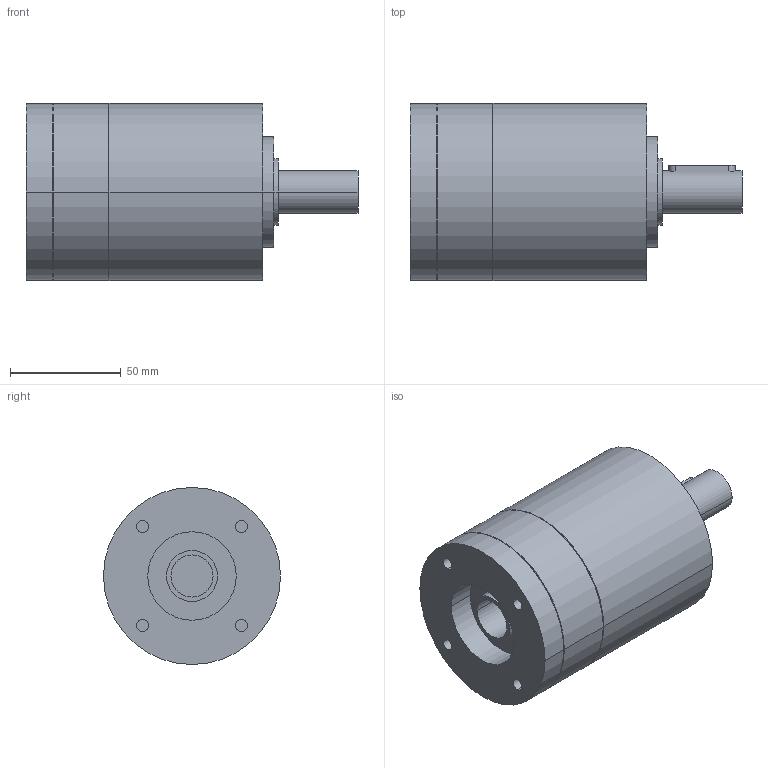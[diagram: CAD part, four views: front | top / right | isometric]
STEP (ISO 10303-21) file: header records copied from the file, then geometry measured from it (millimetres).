
FILE_DESCRIPTION(('CoCreate Modeling STEP Export'),'2;1');
FILE_NAME('GPR100_ig-3-4-5-6_19_B14_19_P17.stp','2014-08-26T10:08:44',(''),(''),'CoCreate Modeling STEP processor for AP214 (Solid Model)','CoCreate Modeling 16.00C 25-Feb-2009 (C) Parametric Technology GmbH','');
FILE_SCHEMA(('AUTOMOTIVE_DESIGN { 1 0 10303 214 1 1 1 1 }'));
Length unit declared in the file: millimetre
Products named in the file (2): GPR100_ig-3-4-5-6_19_B14_19_P17
Assembly tree (1 placements, depth 2):
  GPR100_ig-3-4-5-6_19_B14_19_P17
    GPR100_ig-3-4-5-6_19_B14_19_P17
Bounding box: 150 x 80 x 80 mm (x, y, z)
Volume: 532826.2 mm3; surface area: 47504.5 mm2
Topology: 1 solids, 1 shells, 77 faces, 196 edges, 140 vertices
Faces by surface type: cylinder 46, plane 25, cone 6
Entity records: 1961 total; most frequent: ORIENTED_EDGE 388, CARTESIAN_POINT 359, DIRECTION 252, EDGE_CURVE 194, VERTEX_POINT 140, EDGE_LOOP 98, AXIS2_PLACEMENT_3D 97, FACE_OUTER_BOUND 77
